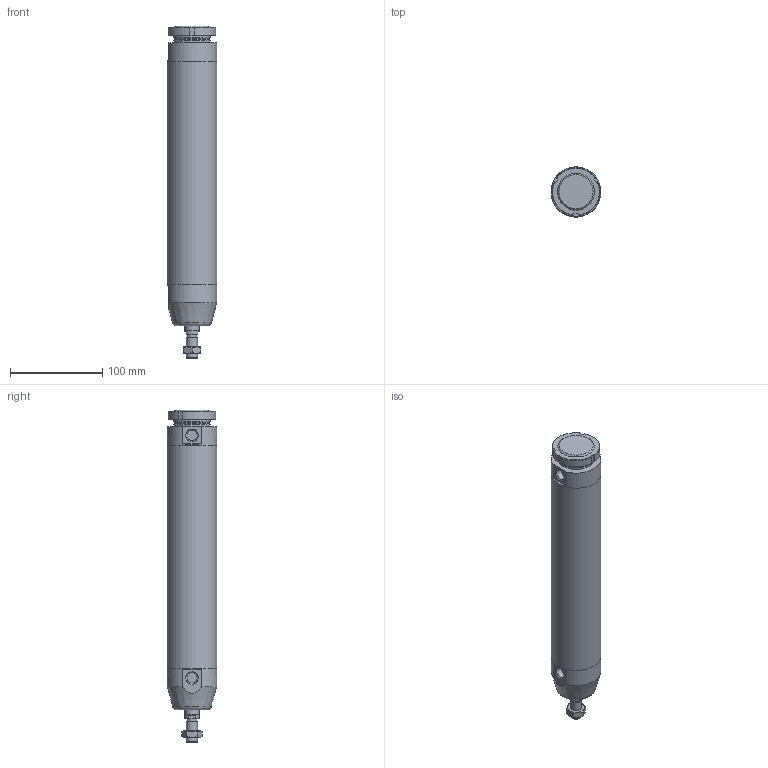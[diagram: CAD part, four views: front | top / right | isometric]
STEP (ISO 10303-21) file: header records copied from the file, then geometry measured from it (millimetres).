
FILE_DESCRIPTION(/* description */ (''),/* implementation_level */ '2;1');
FILE_NAME(/* name */ 'I:\Area Tecnica\Documenti\A-Manieri\_Inventor\12X\12X#B_###_####_#_#\12XAB_050_0200_#_#.stp',/* time_stamp */ '2015-04-27T16:25:33+02:00',/* author */ ('maniean1'),/* organization */ ('Pneumax S.p.A.'),/* preprocessor_version */ 'ST-DEVELOPER v15.2',/* originating_system */ 'Autodesk Inventor 2014',/* authorisation */ '');
FILE_SCHEMA (('AUTOMOTIVE_DESIGN { 1 0 10303 214 3 1 1 }'));
Length unit declared in the file: millimetre
Products named in the file (7): C1250_619-0200; 12X50_613; S12X50_0200; 12X_50_11; 12X50_620; G12X_050_05; 12XAB_050_0200_#_#
Bounding box: 54 x 54 x 360 mm (x, y, z)
Volume: 372395.4 mm3; surface area: 132463.6 mm2
Topology: 6 solids, 6 shells, 80 faces, 175 edges, 112 vertices
Faces by surface type: plane 40, cylinder 20, cone 19, torus 1
Full cylindrical faces by diameter (mm): 10.2 x1, 11.4 x2, 12 x2, 14 x1, 15.6 x1, 16 x1, 38.2 x1, 40 x3, 50 x2, 54 x3
Entity records: 2134 total; most frequent: CARTESIAN_POINT 399, DIRECTION 359, ORIENTED_EDGE 282, AXIS2_PLACEMENT_3D 154, EDGE_CURVE 141, EDGE_LOOP 122, VERTEX_POINT 107, ADVANCED_FACE 80
